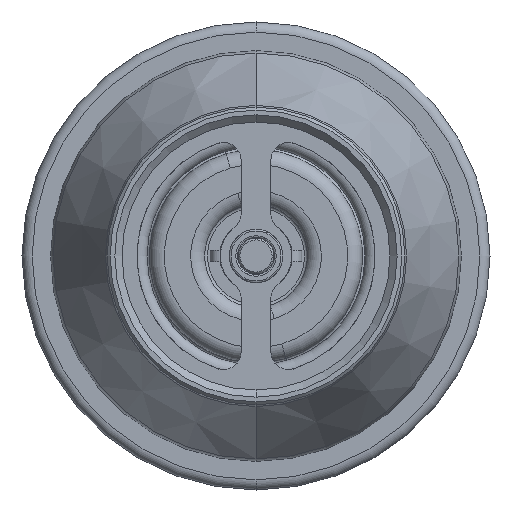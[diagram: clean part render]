
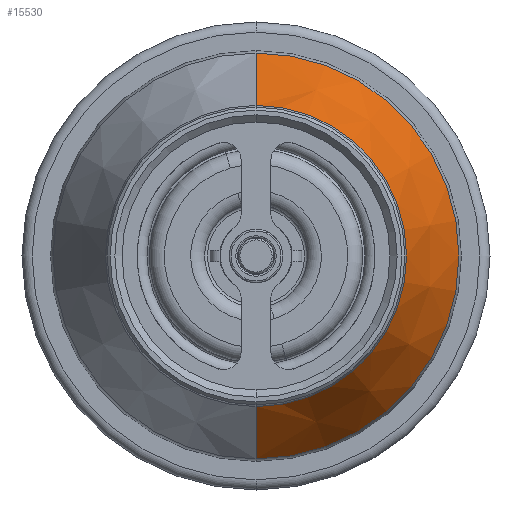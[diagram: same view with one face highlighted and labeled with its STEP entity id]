
A CAD part, front view. The second image highlights one B-rep face of the part: STEP entity #15530.
In plain terms, the highlighted conical face has half-angle 25 degrees and reference radius 34.078 mm.
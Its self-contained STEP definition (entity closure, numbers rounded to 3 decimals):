
#413 = LINE ( 'NONE', #15089, #4845 ) ;
#1494 = CARTESIAN_POINT ( 'NONE',  ( 0., 22.603, 25.281 ) ) ;
#2508 = LINE ( 'NONE', #8109, #16707 ) ;
#2598 = AXIS2_PLACEMENT_3D ( 'NONE', #9521, #17783, #9591 ) ;
#2704 = CARTESIAN_POINT ( 'NONE',  ( 0., 22.603, -25.281 ) ) ;
#2755 = FACE_OUTER_BOUND ( 'NONE', #17226, .T. ) ;
#2912 = DIRECTION ( 'NONE',  ( 0., 0., -1. ) ) ;
#3279 = CIRCLE ( 'NONE', #10974, 34.078 ) ;
#4556 = CARTESIAN_POINT ( 'NONE',  ( 0., 41.469, 0. ) ) ;
#4845 = VECTOR ( 'NONE', #4993, 1000. ) ;
#4993 = DIRECTION ( 'NONE',  ( 0., 0.906, -0.423 ) ) ;
#5193 = ORIENTED_EDGE ( 'NONE', *, *, #9759, .F. ) ;
#5682 = VERTEX_POINT ( 'NONE', #1494 ) ;
#5892 = CONICAL_SURFACE ( 'NONE', #10815, 34.078, 0.436 ) ;
#5936 = VERTEX_POINT ( 'NONE', #2704 ) ;
#6789 = CARTESIAN_POINT ( 'NONE',  ( 0., 41.469, 34.078 ) ) ;
#7043 = EDGE_CURVE ( 'NONE', #5682, #14085, #2508, .T. ) ;
#8109 = CARTESIAN_POINT ( 'NONE',  ( 0., 41.469, 34.078 ) ) ;
#8268 = ORIENTED_EDGE ( 'NONE', *, *, #7043, .F. ) ;
#8956 = ORIENTED_EDGE ( 'NONE', *, *, #16712, .T. ) ;
#9521 = CARTESIAN_POINT ( 'NONE',  ( 0., 22.603, 0. ) ) ;
#9591 = DIRECTION ( 'NONE',  ( 0., 0., -1. ) ) ;
#9759 = EDGE_CURVE ( 'NONE', #5936, #5682, #11577, .T. ) ;
#10815 = AXIS2_PLACEMENT_3D ( 'NONE', #4556, #16417, #21392 ) ;
#10974 = AXIS2_PLACEMENT_3D ( 'NONE', #21352, #11523, #2912 ) ;
#11523 = DIRECTION ( 'NONE',  ( 0., -1., 0. ) ) ;
#11577 = CIRCLE ( 'NONE', #2598, 25.281 ) ;
#14085 = VERTEX_POINT ( 'NONE', #6789 ) ;
#14347 = CARTESIAN_POINT ( 'NONE',  ( 0., 41.469, -34.078 ) ) ;
#14849 = ORIENTED_EDGE ( 'NONE', *, *, #15855, .T. ) ;
#15089 = CARTESIAN_POINT ( 'NONE',  ( 0., 41.469, -34.078 ) ) ;
#15147 = DIRECTION ( 'NONE',  ( 0., 0.906, 0.423 ) ) ;
#15530 = ADVANCED_FACE ( 'NONE', ( #2755 ), #5892, .T. ) ;
#15855 = EDGE_CURVE ( 'NONE', #5936, #20456, #413, .T. ) ;
#16417 = DIRECTION ( 'NONE',  ( 0., 1., 0. ) ) ;
#16707 = VECTOR ( 'NONE', #15147, 1000. ) ;
#16712 = EDGE_CURVE ( 'NONE', #20456, #14085, #3279, .T. ) ;
#17226 = EDGE_LOOP ( 'NONE', ( #5193, #14849, #8956, #8268 ) ) ;
#17783 = DIRECTION ( 'NONE',  ( 0., -1., 0. ) ) ;
#20456 = VERTEX_POINT ( 'NONE', #14347 ) ;
#21352 = CARTESIAN_POINT ( 'NONE',  ( 0., 41.469, 0. ) ) ;
#21392 = DIRECTION ( 'NONE',  ( 0., 0., 1. ) ) ;
